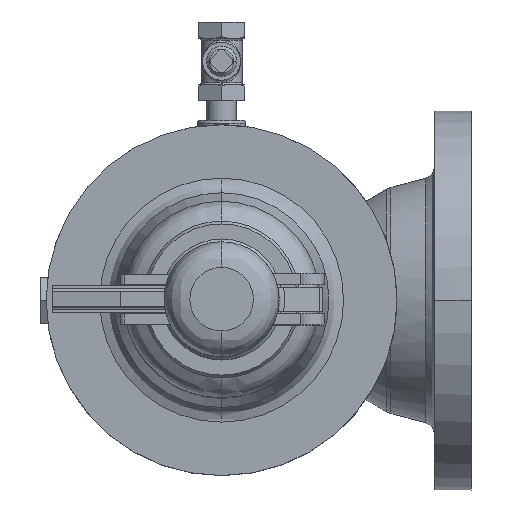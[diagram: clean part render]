
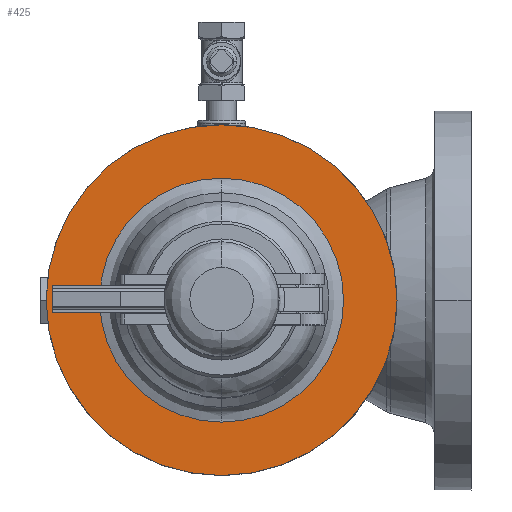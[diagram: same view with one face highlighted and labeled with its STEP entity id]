
A CAD part, top view. The second image highlights one B-rep face of the part: STEP entity #425.
In plain terms, the highlighted planar face has unit normal (0, 0, 1) as drawn and (0, 1, 0) by its records, which use the part's own axes.
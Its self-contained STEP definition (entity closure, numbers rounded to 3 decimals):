
#425=ADVANCED_FACE('',(#1994,#1995),#1993,.T.);
#1993=PLANE('',#14150);
#1994=FACE_OUTER_BOUND('',#14151,.T.);
#1995=FACE_BOUND('',#14152,.T.);
#14147=CARTESIAN_POINT('',(-210.918,130.749,-242.));
#14148=DIRECTION('',(0.,1.,0.));
#14149=DIRECTION('',(0.,0.,1.));
#14150=AXIS2_PLACEMENT_3D('',#14147,#14148,#14149);
#14151=EDGE_LOOP('',(#20364,#20365));
#14152=EDGE_LOOP('',(#20366,#20367));
#20364=ORIENTED_EDGE('',*,*,#22492,.T.);
#20365=ORIENTED_EDGE('',*,*,#22493,.T.);
#20366=ORIENTED_EDGE('',*,*,#22494,.T.);
#20367=ORIENTED_EDGE('',*,*,#22495,.T.);
#22492=EDGE_CURVE('',#26165,#26166,#26167,.T.);
#22493=EDGE_CURVE('',#26166,#26165,#26173,.T.);
#22494=EDGE_CURVE('',#26179,#26180,#26181,.T.);
#22495=EDGE_CURVE('',#26180,#26179,#26187,.T.);
#26165=VERTEX_POINT('',#34432);
#26166=VERTEX_POINT('',#34433);
#26167=CIRCLE('',#34437,116.);
#26173=CIRCLE('',#34441,116.);
#26179=VERTEX_POINT('',#34442);
#26180=VERTEX_POINT('',#34443);
#26181=CIRCLE('',#34447,80.673);
#26187=CIRCLE('',#34451,80.673);
#34432=CARTESIAN_POINT('',(0.,130.749,116.));
#34433=CARTESIAN_POINT('',(0.,130.749,-116.));
#34434=CARTESIAN_POINT('',(0.,130.749,0.));
#34435=DIRECTION('',(0.,1.,0.));
#34436=DIRECTION('',(0.,0.,1.));
#34437=AXIS2_PLACEMENT_3D('',#34434,#34435,#34436);
#34438=CARTESIAN_POINT('',(0.,130.749,0.));
#34439=DIRECTION('',(0.,1.,0.));
#34440=DIRECTION('',(0.,0.,1.));
#34441=AXIS2_PLACEMENT_3D('',#34438,#34439,#34440);
#34442=CARTESIAN_POINT('',(0.,130.749,80.673));
#34443=CARTESIAN_POINT('',(0.,130.749,-80.673));
#34444=CARTESIAN_POINT('',(0.,130.749,0.));
#34445=DIRECTION('',(0.,-1.,0.));
#34446=DIRECTION('',(0.,0.,1.));
#34447=AXIS2_PLACEMENT_3D('',#34444,#34445,#34446);
#34448=CARTESIAN_POINT('',(0.,130.749,0.));
#34449=DIRECTION('',(0.,-1.,0.));
#34450=DIRECTION('',(0.,0.,1.));
#34451=AXIS2_PLACEMENT_3D('',#34448,#34449,#34450);
